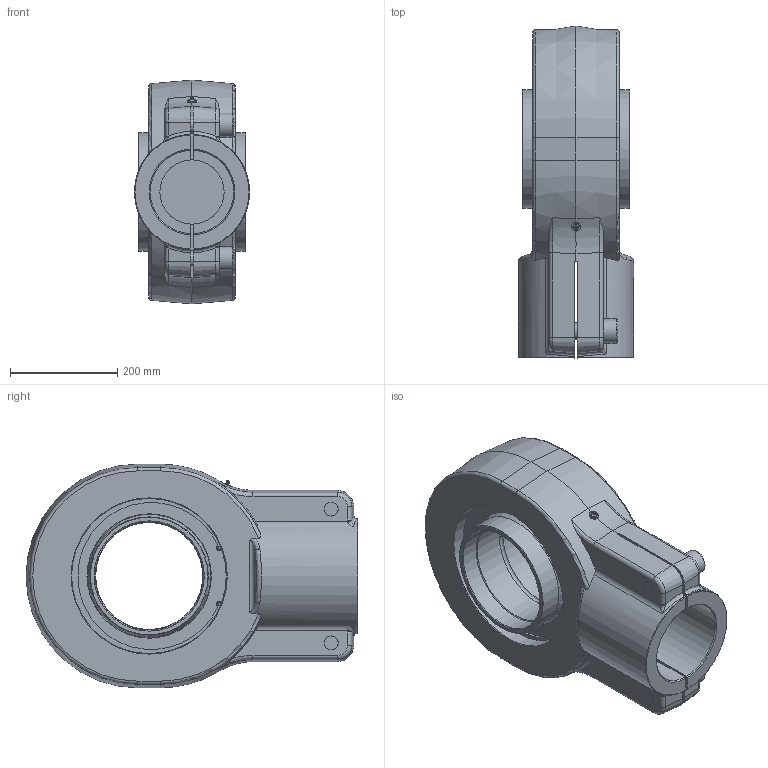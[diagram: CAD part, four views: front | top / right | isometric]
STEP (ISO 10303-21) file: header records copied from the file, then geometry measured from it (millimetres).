
FILE_DESCRIPTION((''),'2;1');
FILE_NAME('H:\WSW\Hydraulikgelenkköpfe\Aktuelle GK Zeichnungen andere Formate\WAPR..CE\WAPR..CE .STP\K-WAPR200CE.stp','2007-12-21T10:41:20',('oliver.joswig'),(''),'Autodesk Inventor 2008','Autodesk Inventor 2008','');
FILE_SCHEMA(('AUTOMOTIVE_DESIGN { 1 0 10303 214 1 1 1 1 }'));
Length unit declared in the file: millimetre
Products named in the file (7): K-WAPR200CE; GEEW_ES_AR mit Nut [Benennung=AR_GEEW200ES][Kugel_dk=125mm][Breite=100mm][Radius_r1s=1,1mm][Aussendurchmessser=145mm]; GEEW_ES_IR mit Nut [Benennung=IR200LO][Breite=200 mm][Kugel=125 mm][Bund_D=110,5 mm][Freid_b=35,3 mm][Freid_D=101,5 mm][Bohr=100 mm][Fase=45 grd][R_rs=1,5 mm]; F-WAPR200CE; DIN 472 290 x 5; DIN 71412  A  (Feingewinde) AM10 x 1 keg kurz; DIN EN ISO 4762  (Regelgewinde) M30 x 100
Assembly tree (8 placements, depth 2):
  K-WAPR200CE
    GEEW_ES_AR mit Nut [Benennung=AR_GEEW200ES][Kugel_dk=125mm][Breite=100mm][Radius_r1s=1,1mm][Aussendurchmessser=145mm]
    GEEW_ES_IR mit Nut [Benennung=IR200LO][Breite=200 mm][Kugel=125 mm][Bund_D=110,5 mm][Freid_b=35,3 mm][Freid_D=101,5 mm][Bohr=100 mm][Fase=45 grd][R_rs=1,5 mm]
    F-WAPR200CE
    DIN 472 290 x 5  x2
    DIN 71412  A  (Feingewinde) AM10 x 1 keg kurz
    DIN EN ISO 4762  (Regelgewinde) M30 x 100  x2
Bounding box: 215 x 620 x 418 mm (x, y, z)
Volume: 22720726.3 mm3; surface area: 1474836.5 mm2
Topology: 8 solids, 8 shells, 308 faces, 765 edges, 478 vertices
Faces by surface type: plane 117, cylinder 72, bspline 51, cone 42, torus 23, sphere 3
Full cylindrical faces by diameter (mm): 5 x5, 9.021 x2, 10 x1, 15.185 x2, 30 x2, 45 x2, 120 x1, 200 x2, 203 x2, 221 x2, 290 x5, 298 x2
Entity records: 12210 total; most frequent: CARTESIAN_POINT 5879, ORIENTED_EDGE 1250, DIRECTION 1210, EDGE_CURVE 625, AXIS2_PLACEMENT_3D 479, VERTEX_POINT 423, EDGE_LOOP 378, FACE_OUTER_BOUND 282
